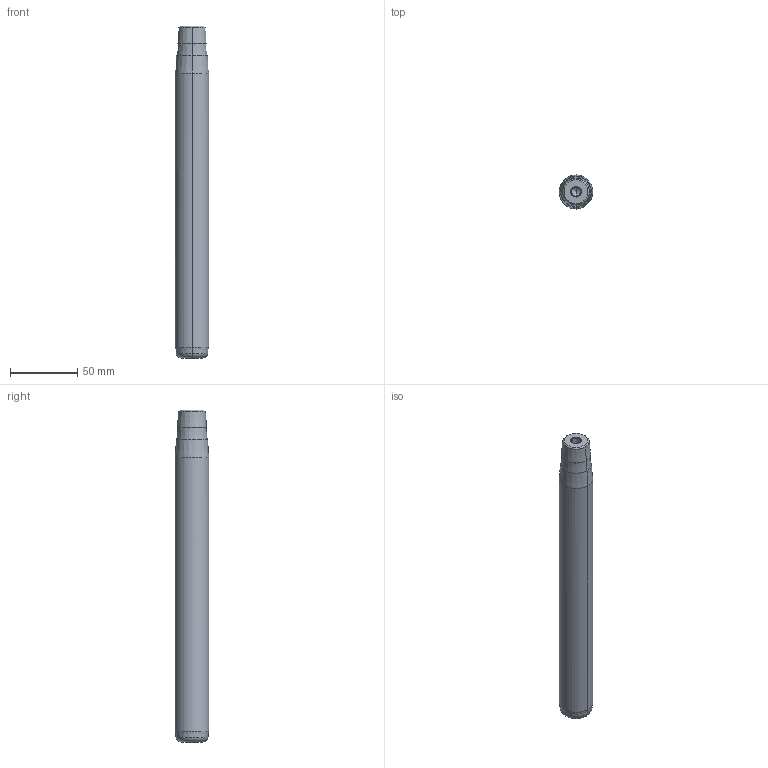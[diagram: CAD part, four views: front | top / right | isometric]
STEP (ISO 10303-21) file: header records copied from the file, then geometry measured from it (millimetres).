
FILE_DESCRIPTION(('CATIA V5 STEP Exchange'),'2;1');
FILE_NAME('C:\Users\Utente\Desktop\IO LAVORO\3D X SITO CF\X SITO\722\722-25x224x247.stp','2021-01-09T08:02:39+00:00',('none'),('none'),'CATIA Version 5 Release 20 GA (IN-10)','CATIA V5 STEP AP203','none');
FILE_SCHEMA(('CONFIG_CONTROL_DESIGN'));
Length unit declared in the file: millimetre
Products named in the file (1): 722-25x224x247
Bounding box: 25 x 25 x 247 mm (x, y, z)
Volume: 115305.5 mm3; surface area: 20785.9 mm2
Topology: 1 solids, 1 shells, 32 faces, 98 edges, 66 vertices
Faces by surface type: cone 22, cylinder 6, plane 2, torus 2
Entity records: 1166 total; most frequent: CARTESIAN_POINT 279, ORIENTED_EDGE 188, DIRECTION 148, EDGE_CURVE 94, AXIS2_PLACEMENT_3D 89, VERTEX_POINT 66, CIRCLE 56, EDGE_LOOP 34
